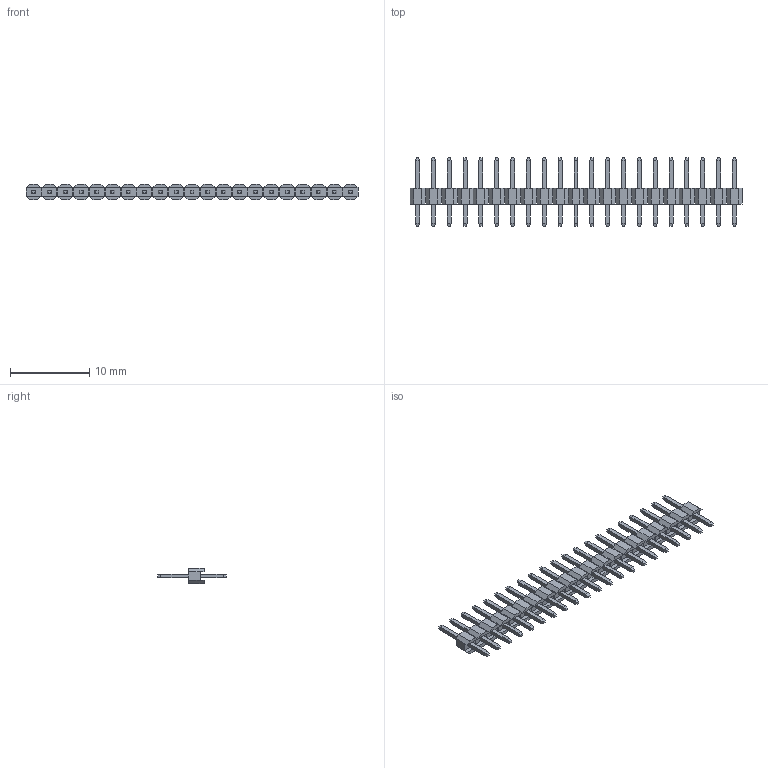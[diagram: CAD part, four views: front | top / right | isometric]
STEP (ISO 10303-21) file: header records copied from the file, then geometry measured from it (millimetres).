
FILE_DESCRIPTION (( 'STEP AP203' ), '1' );
FILE_NAME ('PZ200-1-21-Z-2.0(2.00 等齬 眻渀 齬渀-HCTL).STEP', '2026-04-01T01:17:15', ( '' ), ( '' ), 'SwSTEP 2.0', 'SolidWorks 2025', '' );
FILE_SCHEMA (( 'CONFIG_CONTROL_DESIGN' ));
Length unit declared in the file: millimetre
Products named in the file (1): PZ200-1-21-Z-2.0(2.00 单排 直针 排针-HCTL)
Bounding box: 41.9 x 8.7 x 2 mm (x, y, z)
Volume: 160.3 mm3; surface area: 808.9 mm2
Topology: 41 solids, 41 shells, 792 faces, 1752 edges, 1084 vertices
Faces by surface type: plane 792
Entity records: 21017 total; most frequent: CARTESIAN_POINT 3629, ORIENTED_EDGE 3504, DIRECTION 3338, EDGE_CURVE 1752, LINE 1752, VECTOR 1752, VERTEX_POINT 1084, EDGE_LOOP 834
